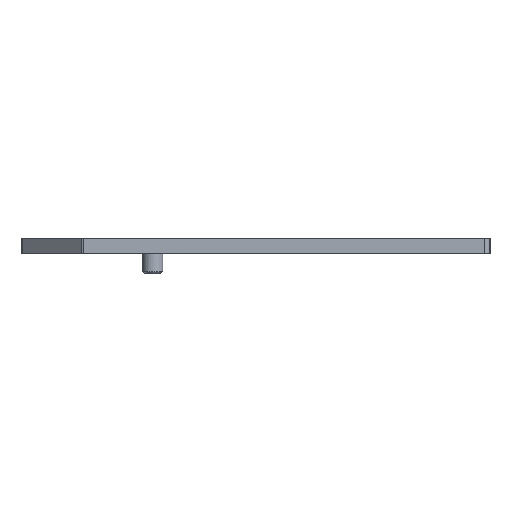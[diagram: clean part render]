
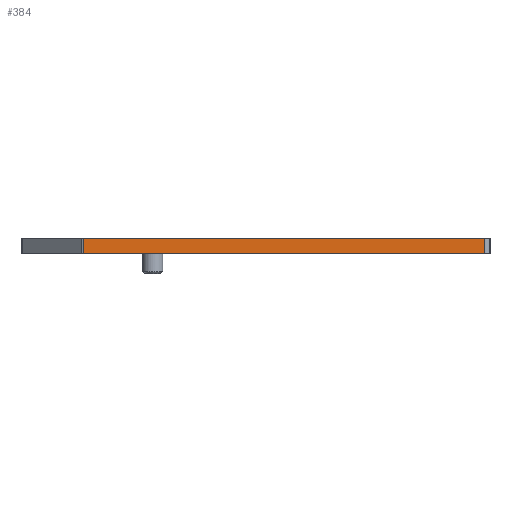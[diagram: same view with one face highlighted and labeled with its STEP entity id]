
A CAD part, left-side view. The second image highlights one B-rep face of the part: STEP entity #384.
In plain terms, the highlighted planar face has unit normal (-1, 0, 0).
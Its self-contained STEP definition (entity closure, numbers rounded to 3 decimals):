
#384 = ADVANCED_FACE('',(#385),#399,.T.);
#385 = FACE_BOUND('',#386,.T.);
#386 = EDGE_LOOP('',(#387,#410,#426,#442));
#387 = ORIENTED_EDGE('',*,*,#388,.F.);
#388 = EDGE_CURVE('',#389,#391,#393,.T.);
#389 = VERTEX_POINT('',#390);
#390 = CARTESIAN_POINT('',(4.379,42.775,0.));
#391 = VERTEX_POINT('',#392);
#392 = CARTESIAN_POINT('',(4.379,2.858,0.));
#393 = SURFACE_CURVE('',#394,(#398),.PCURVE_S1.);
#394 = LINE('',#395,#396);
#395 = CARTESIAN_POINT('',(4.379,42.775,0.));
#396 = VECTOR('',#397,1.);
#397 = DIRECTION('',(0.,-1.,0.));
#398 = PCURVE('',#399,#404);
#399 = PLANE('',#400);
#400 = AXIS2_PLACEMENT_3D('',#401,#402,#403);
#401 = CARTESIAN_POINT('',(4.379,42.775,-1.5));
#402 = DIRECTION('',(-1.,0.,0.));
#403 = DIRECTION('',(0.,0.,1.));
#404 = DEFINITIONAL_REPRESENTATION('',(#405),#409);
#405 = LINE('',#406,#407);
#406 = CARTESIAN_POINT('',(1.5,0.));
#407 = VECTOR('',#408,1.);
#408 = DIRECTION('',(0.,-1.));
#409 = ( GEOMETRIC_REPRESENTATION_CONTEXT(2) 
PARAMETRIC_REPRESENTATION_CONTEXT() REPRESENTATION_CONTEXT('2D SPACE',''
  ) );
#410 = ORIENTED_EDGE('',*,*,#411,.F.);
#411 = EDGE_CURVE('',#412,#389,#414,.T.);
#412 = VERTEX_POINT('',#413);
#413 = CARTESIAN_POINT('',(4.379,42.775,-1.5));
#414 = SURFACE_CURVE('',#415,(#419),.PCURVE_S1.);
#415 = LINE('',#416,#417);
#416 = CARTESIAN_POINT('',(4.379,42.775,-1.5));
#417 = VECTOR('',#418,1.);
#418 = DIRECTION('',(0.,0.,1.));
#419 = PCURVE('',#399,#420);
#420 = DEFINITIONAL_REPRESENTATION('',(#421),#425);
#421 = LINE('',#422,#423);
#422 = CARTESIAN_POINT('',(0.,0.));
#423 = VECTOR('',#424,1.);
#424 = DIRECTION('',(1.,0.));
#425 = ( GEOMETRIC_REPRESENTATION_CONTEXT(2) 
PARAMETRIC_REPRESENTATION_CONTEXT() REPRESENTATION_CONTEXT('2D SPACE',''
  ) );
#426 = ORIENTED_EDGE('',*,*,#427,.T.);
#427 = EDGE_CURVE('',#412,#428,#430,.T.);
#428 = VERTEX_POINT('',#429);
#429 = CARTESIAN_POINT('',(4.379,2.858,-1.5));
#430 = SURFACE_CURVE('',#431,(#435),.PCURVE_S1.);
#431 = LINE('',#432,#433);
#432 = CARTESIAN_POINT('',(4.379,42.775,-1.5));
#433 = VECTOR('',#434,1.);
#434 = DIRECTION('',(0.,-1.,0.));
#435 = PCURVE('',#399,#436);
#436 = DEFINITIONAL_REPRESENTATION('',(#437),#441);
#437 = LINE('',#438,#439);
#438 = CARTESIAN_POINT('',(0.,0.));
#439 = VECTOR('',#440,1.);
#440 = DIRECTION('',(0.,-1.));
#441 = ( GEOMETRIC_REPRESENTATION_CONTEXT(2) 
PARAMETRIC_REPRESENTATION_CONTEXT() REPRESENTATION_CONTEXT('2D SPACE',''
  ) );
#442 = ORIENTED_EDGE('',*,*,#443,.T.);
#443 = EDGE_CURVE('',#428,#391,#444,.T.);
#444 = SURFACE_CURVE('',#445,(#449),.PCURVE_S1.);
#445 = LINE('',#446,#447);
#446 = CARTESIAN_POINT('',(4.379,2.858,-1.5));
#447 = VECTOR('',#448,1.);
#448 = DIRECTION('',(0.,0.,1.));
#449 = PCURVE('',#399,#450);
#450 = DEFINITIONAL_REPRESENTATION('',(#451),#455);
#451 = LINE('',#452,#453);
#452 = CARTESIAN_POINT('',(0.,-39.917));
#453 = VECTOR('',#454,1.);
#454 = DIRECTION('',(1.,0.));
#455 = ( GEOMETRIC_REPRESENTATION_CONTEXT(2) 
PARAMETRIC_REPRESENTATION_CONTEXT() REPRESENTATION_CONTEXT('2D SPACE',''
  ) );
